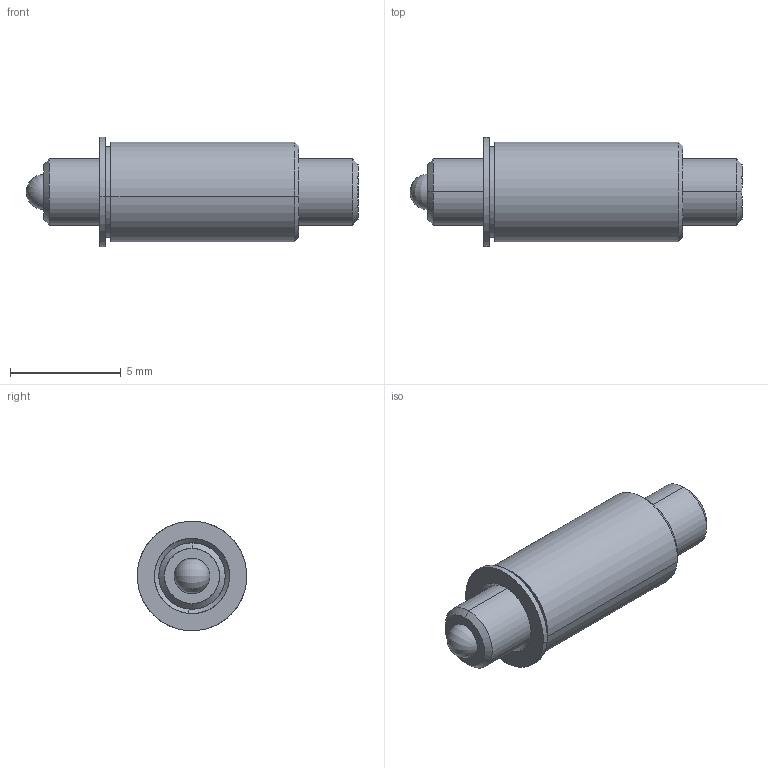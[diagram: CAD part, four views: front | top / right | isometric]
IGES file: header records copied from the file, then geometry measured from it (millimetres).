
Start section: SolidWorks IGES file using analytic representation for surfaces
Global section: file name: C:\Users\workpc\Desktop\KMA Solidworks\TSBM3-25-15_9.IGS; native system: SolidWorks 2013; preprocessor: SolidWorks 2013; author: workpc; date: 130314.161056; units: inch
Bounding box: 15 x 4.95 x 4.95 mm (x, y, z)
Surface area: 397.5 mm2 (no closed solid volume)
Topology: 0 solids, 0 shells, 34 faces, 454 edges, 450 vertices
Faces by surface type: revolution 22, bspline 12
